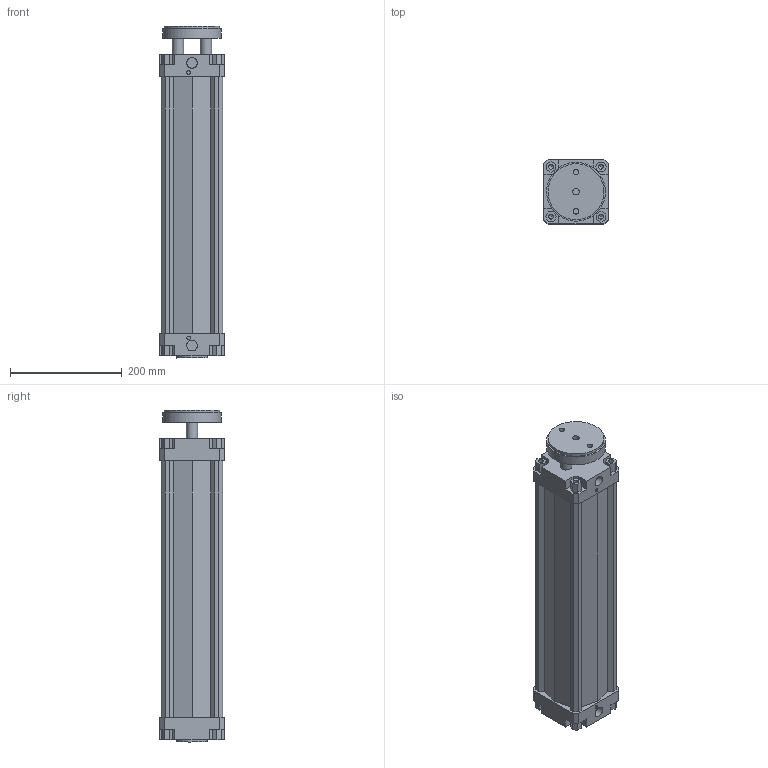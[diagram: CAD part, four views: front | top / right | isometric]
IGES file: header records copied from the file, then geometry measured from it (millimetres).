
Global section: file name: 132#_100_0400_01; native system: Autodesk Inventor 2014; preprocessor: unknown; author: A. Manieri; date: 20161006.163759; units: millimetre
Bounding box: 115 x 115 x 593 mm (x, y, z)
Volume: 3023196.9 mm3; surface area: 570359.6 mm2
Topology: 2 solids, 2 shells, 180 faces, 491 edges, 335 vertices
Faces by surface type: bspline 180
